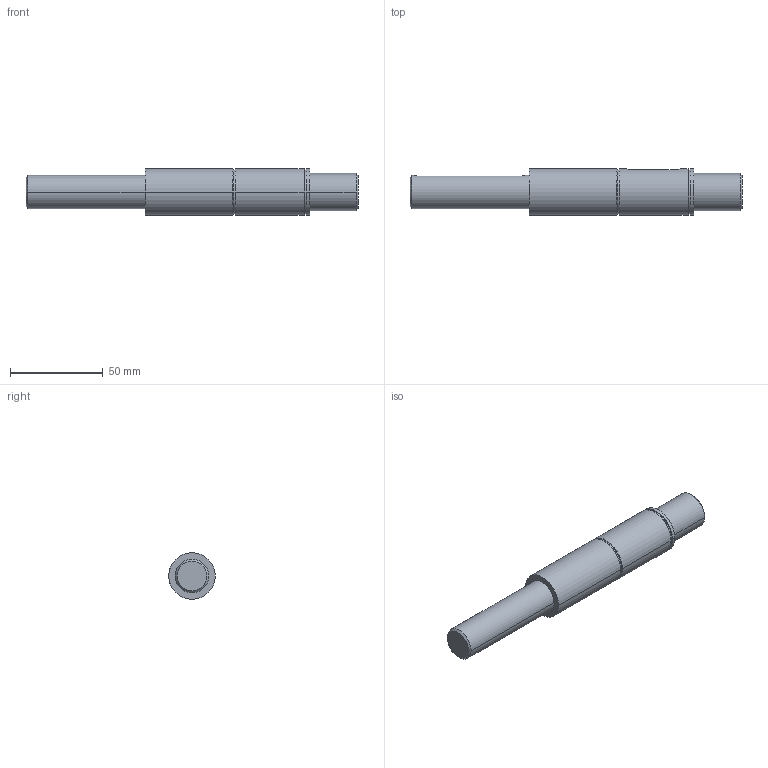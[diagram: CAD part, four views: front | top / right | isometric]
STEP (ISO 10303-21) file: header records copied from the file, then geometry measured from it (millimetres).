
FILE_DESCRIPTION (( 'STEP AP203' ), '1' );
FILE_NAME ('084.812.013.STEP', '2015-05-22T15:26:30', ( '' ), ( '' ), 'SwSTEP 2.0', 'SolidWorks 2012', '' );
FILE_SCHEMA (( 'CONFIG_CONTROL_DESIGN' ));
Length unit declared in the file: millimetre
Products named in the file (1): 084.812.013
Bounding box: 178.5 x 25 x 25 mm (x, y, z)
Volume: 65696.9 mm3; surface area: 13868.4 mm2
Topology: 1 solids, 1 shells, 44 faces, 96 edges, 60 vertices
Faces by surface type: cylinder 18, plane 14, torus 8, cone 4
Entity records: 1409 total; most frequent: CARTESIAN_POINT 333, DIRECTION 230, ORIENTED_EDGE 192, AXIS2_PLACEMENT_3D 97, EDGE_CURVE 96, VERTEX_POINT 60, CIRCLE 52, EDGE_LOOP 50
